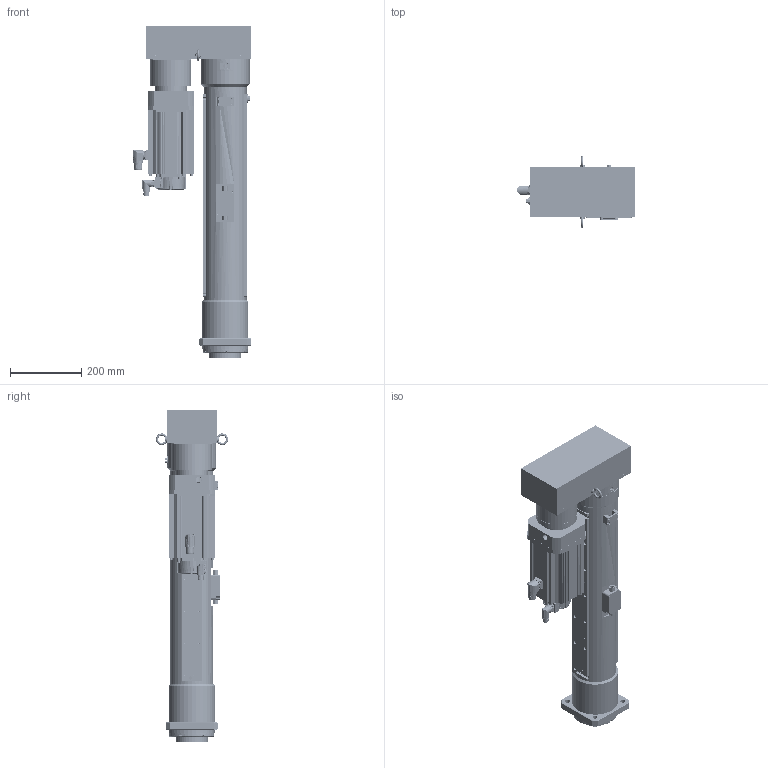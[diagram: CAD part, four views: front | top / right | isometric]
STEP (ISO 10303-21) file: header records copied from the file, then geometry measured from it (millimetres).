
FILE_DESCRIPTION( ('This file contains a STEP AP42 implementation' ,'as created by ZW3D STEP Interface translator.') ,'2;1' );
FILE_NAME( 'OACIS-DC-P035-P040-500-195-A6V400_V20.51.stp' ,'26 427.153816', (''), ('ZWCAD Software Co.'), 'Version 1.0', 'ZW3D to STEP translator', '' );
FILE_SCHEMA(('AUTOMOTIVE_DESIGN { 1 0 10303 214 1 1 1 1 }'));
Length unit declared in the file: millimetre
Products named in the file (1): 0
Bounding box: 331 x 202.25 x 931 mm (x, y, z)
Volume: 15139820.9 mm3; surface area: 2322262.6 mm2
Topology: 57 solids, 57 shells, 3896 faces, 9966 edges, 6390 vertices
Faces by surface type: cylinder 1874, plane 1474, cone 382, torus 107, bspline 47, sphere 12
Full cylindrical faces by diameter (mm): 1.25 x12, 1.567 x4, 2 x1, 2.232 x6, 2.459 x1, 2.8 x1, 3.242 x3, 3.3 x91, 4.2 x4, 4.3 x30, 4.5 x14, 4.917 x20, 5 x1, 5.3 x4, 5.5 x5, 6 x12, 6.647 x6, 6.8 x41, 7 x4, 8 x36, 8.4 x8, 8.5 x5, 9 x26, 9.5 x4, 9.78 x8, 10 x7, 10.104 x4, 10.106 x1, 10.2 x16, 10.5 x4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
Entity records: 140616 total; most frequent: CARTESIAN_POINT 36131, DIRECTION 21840, ORIENTED_EDGE 19710, EDGE_CURVE 9855, AXIS2_PLACEMENT_3D 8634, VERTEX_POINT 6387, CIRCLE 4755, EDGE_LOOP 4608
